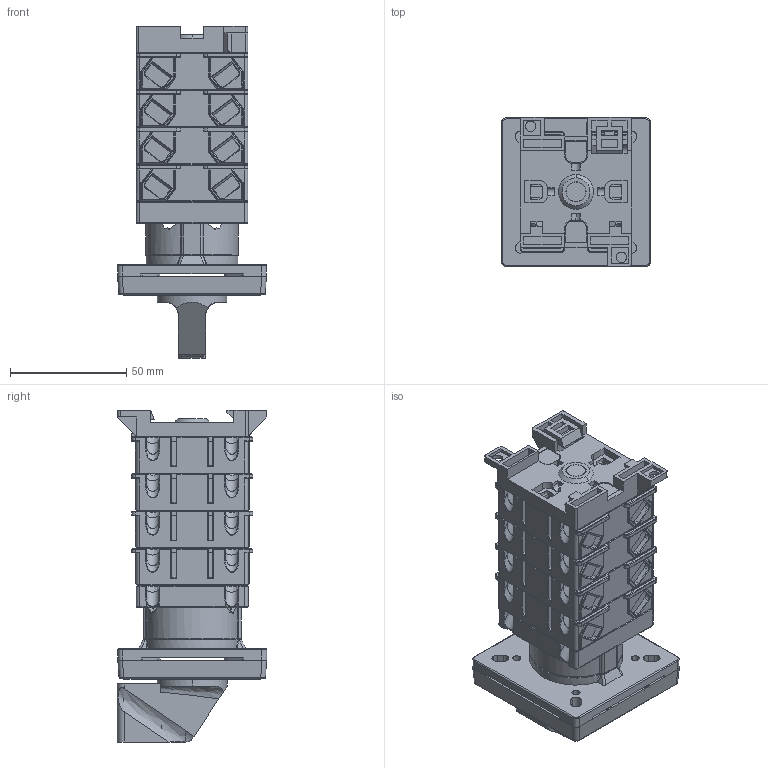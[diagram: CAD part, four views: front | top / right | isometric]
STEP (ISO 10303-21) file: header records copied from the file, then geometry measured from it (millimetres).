
FILE_DESCRIPTION (( 'STEP AP214' ), '1' );
FILE_NAME ('Ïåðåêëþ÷àòåëü 4G16,25-XXXX-U-S18-R114 4ê.STEP', '2022-12-02T13:08:06', ( '' ), ( '' ), 'SwSTEP 2.0', 'SolidWorks 2018', '' );
FILE_SCHEMA (( 'AUTOMOTIVE_DESIGN' ));
Length unit declared in the file: millimetre
Products named in the file (1): Ïåðåêëþ÷àòåëü 4G16,25-XXXX-U-S18-R114 4ê
Bounding box: 64 x 64.21 x 142.8 mm (x, y, z)
Volume: 232377.8 mm3; surface area: 115594 mm2
Topology: 15 solids, 47 shells, 4927 faces, 13007 edges, 8250 vertices
Faces by surface type: plane 2838, cylinder 1519, torus 236, cone 181, bspline 93, sphere 60
Entity records: 216397 total; most frequent: CARTESIAN_POINT 41431, ORIENTED_EDGE 25916, DIRECTION 24411, EDGE_CURVE 12958, LINE 8945, VECTOR 8945, VERTEX_POINT 8238, AXIS2_PLACEMENT_3D 7733
